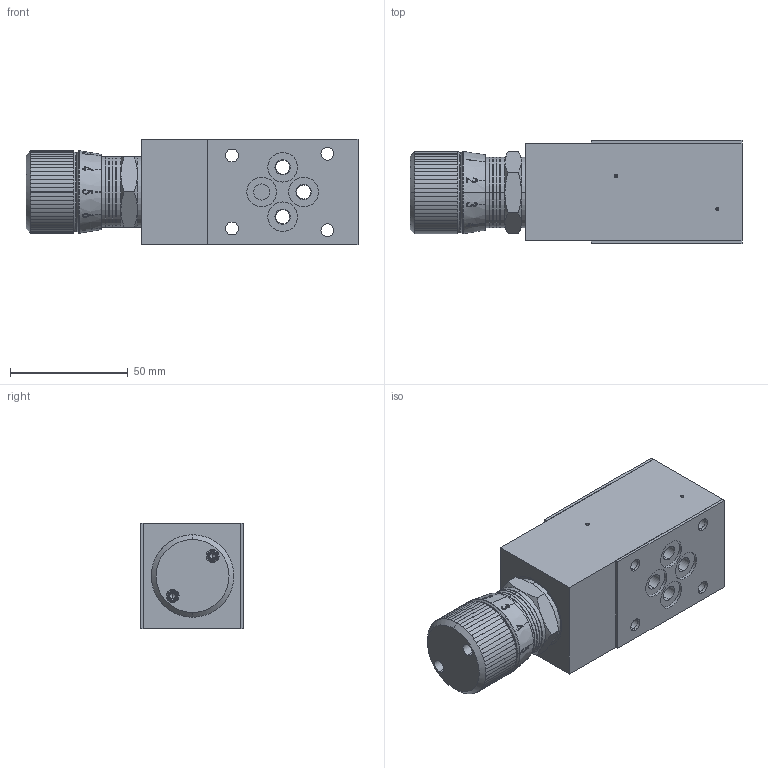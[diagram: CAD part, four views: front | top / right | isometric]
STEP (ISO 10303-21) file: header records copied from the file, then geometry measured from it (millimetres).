
FILE_DESCRIPTION (( 'STEP AP214' ), '1' );
FILE_NAME ('AURDVA6.STEP', '2017-04-12T14:15:09', ( '' ), ( '' ), 'SwSTEP 2.0', 'SolidWorks 2016', '' );
FILE_SCHEMA (( 'AUTOMOTIVE_DESIGN' ));
Length unit declared in the file: millimetre
Products named in the file (1): AURDVA6
Bounding box: 141 x 44 x 45 mm (x, y, z)
Volume: 210696.8 mm3; surface area: 42374.1 mm2
Topology: 3 solids, 3 shells, 991 faces, 2745 edges, 1792 vertices
Faces by surface type: plane 598, cylinder 181, bspline 127, cone 81, torus 4
Entity records: 57211 total; most frequent: CARTESIAN_POINT 22876, ORIENTED_EDGE 5470, DIRECTION 4046, EDGE_CURVE 2735, VERTEX_POINT 1792, AXIS2_PLACEMENT_3D 1492, EDGE_LOOP 1083, VECTOR 1062
